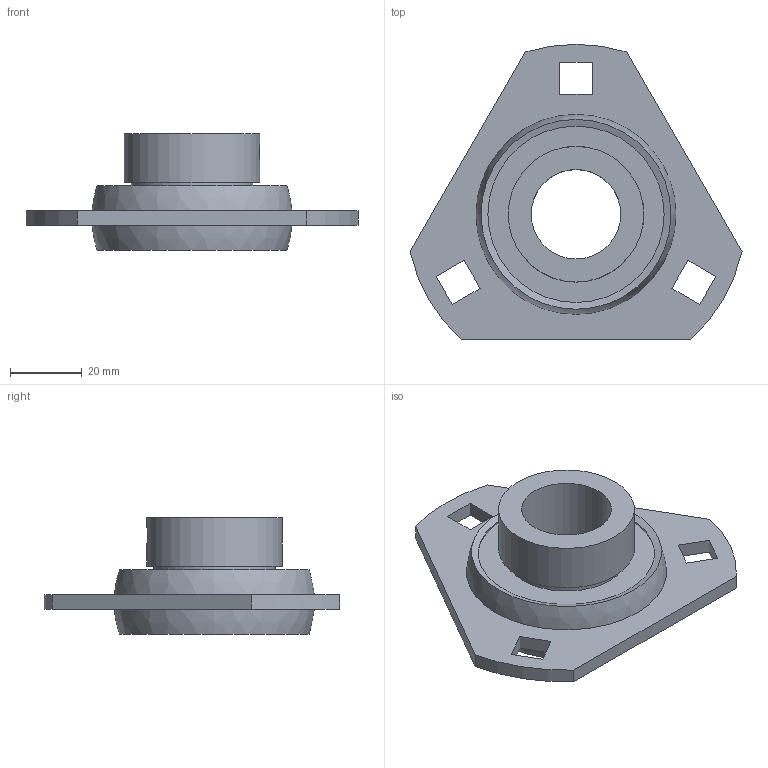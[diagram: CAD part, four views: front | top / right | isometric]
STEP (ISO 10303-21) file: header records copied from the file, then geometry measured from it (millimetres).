
FILE_DESCRIPTION((''),'2;1');
FILE_NAME('\\Ts-tgl068\j-cad-d-base\00.3DCADデータ作成フォルダ\02.フランジ形\KHPFT\KHPFT205A.stp','2014-04-24T10:28:54',('btec_1106_2'),(''),'Autodesk Inventor 2012','Autodesk Inventor 2012','');
FILE_SCHEMA(('AUTOMOTIVE_DESIGN { 1 0 10303 214 1 1 1 1 }'));
Length unit declared in the file: millimetre
Products named in the file (3): KHPFT200A; PFT5; KH205GA
Assembly tree (2 placements, depth 2):
  KHPFT200A
    PFT5
    KH205GA
Bounding box: 92.73 x 82.5 x 32.5 mm (x, y, z)
Volume: 49964.9 mm3; surface area: 23099.8 mm2
Topology: 2 solids, 2 shells, 45 faces, 114 edges, 76 vertices
Faces by surface type: plane 29, cylinder 8, sphere 4, cone 4
Full cylindrical faces by diameter (mm): 5 x1, 6 x1, 25 x1, 34 x1, 37.9 x1
Entity records: 1373 total; most frequent: CARTESIAN_POINT 278, DIRECTION 212, ORIENTED_EDGE 184, EDGE_CURVE 92, AXIS2_PLACEMENT_3D 73, EDGE_LOOP 72, VERTEX_POINT 68, VECTOR 66
